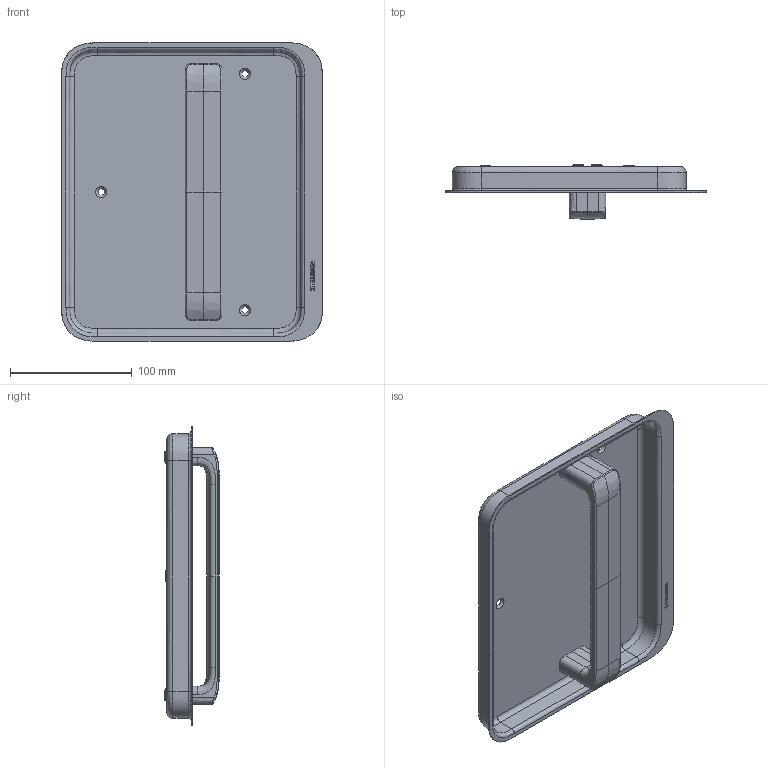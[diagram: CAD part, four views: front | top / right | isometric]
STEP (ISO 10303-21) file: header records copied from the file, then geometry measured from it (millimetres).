
FILE_DESCRIPTION(/* description */ (''),/* implementation_level */ '2;1');
FILE_NAME(/* name */ 'C:\ADSK_DMS_WS\Designs\Vorschläge\Loc Schalen\Heusser Muschel\Heusser-Muschel mit D6\S9.20.D6.0R..stp',/* time_stamp */ '2025-02-18T09:55:24+01:00',/* author */ ('gm'),/* organization */ (''),/* preprocessor_version */ 'ST-DEVELOPER v17.2',/* originating_system */ 'Autodesk Inventor 2019',/* authorisation */ '');
FILE_SCHEMA (('AUTOMOTIVE_DESIGN { 1 0 10303 214 3 1 1 }'));
Length unit declared in the file: millimetre
Products named in the file (4): S9.20.D6.R.; Schale S9.20.R.D6; D6; M5x10 zu D6
Assembly tree (6 placements, depth 2):
  S9.20.D6.R.
    Schale S9.20.R.D6
    D6
    M5x10 zu D6  x4
Bounding box: 214 x 44.5 x 245 mm (x, y, z)
Volume: 147722.9 mm3; surface area: 154838.3 mm2
Topology: 6 solids, 6 shells, 393 faces, 1013 edges, 651 vertices
Faces by surface type: bspline 148, plane 127, cylinder 64, cone 50, torus 4
Full cylindrical faces by diameter (mm): 4.134 x4, 5 x4, 5.5 x4, 9 x4
Entity records: 20817 total; most frequent: CARTESIAN_POINT 13989, ORIENTED_EDGE 1602, DIRECTION 938, EDGE_CURVE 801, VERTEX_POINT 516, LINE 422, VECTOR 422, EDGE_LOOP 347
